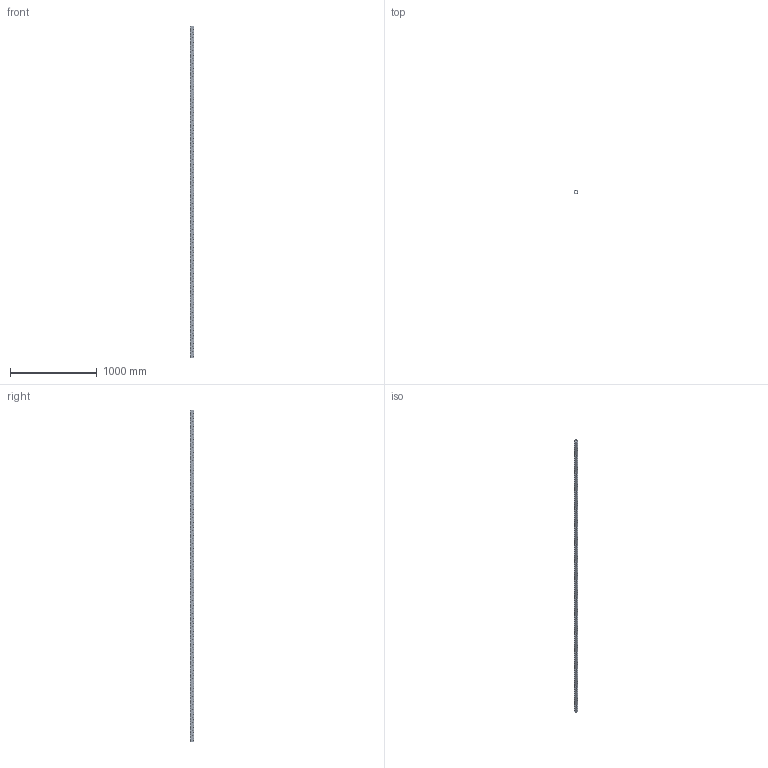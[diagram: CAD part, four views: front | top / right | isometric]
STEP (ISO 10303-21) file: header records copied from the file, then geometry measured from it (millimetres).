
FILE_DESCRIPTION(('CATIA V5 STEP Exchange'),'2;1');
FILE_NAME('U:\Room\唐宝山\EGT002\46-01-010357-01-EGT002-3838.stp','2021-08-25T00:57:51+00:00',('none'),('none'),'CATIA Version 5 Release 21 GA (IN-10)','CATIA V5 STEP AP203','none');
FILE_SCHEMA(('CONFIG_CONTROL_DESIGN'));
Products named in the file (1): 46-01-010357-01-EGT002-3838
Bounding box: 50 x 50 x 3838 mm (x, y, z)
Volume: 2734790.9 mm3; surface area: 1316819.8 mm2
Topology: 1 solids, 1 shells, 5204 faces, 14326 edges, 8868 vertices
Faces by surface type: cone 3072, cylinder 2106, plane 26
Entity records: 211051 total; most frequent: CARTESIAN_POINT 84730, ORIENTED_EDGE 28652, DIRECTION 20450, EDGE_CURVE 14326, AXIS2_PLACEMENT_3D 9741, VERTEX_POINT 8868, EDGE_LOOP 6998, VECTOR 5506
